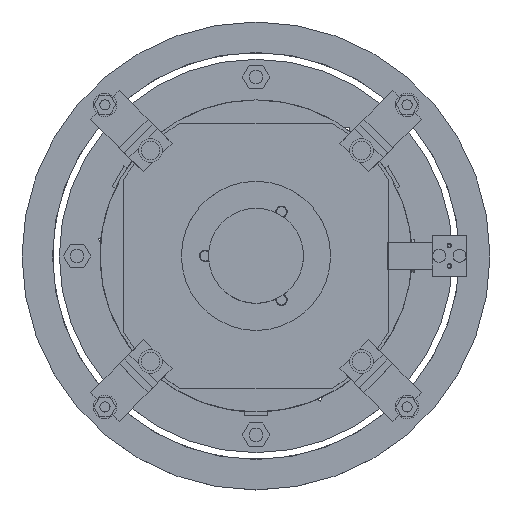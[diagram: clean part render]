
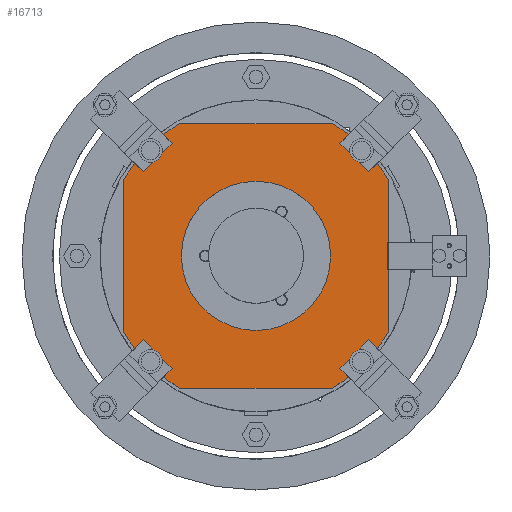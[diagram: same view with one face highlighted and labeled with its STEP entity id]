
A CAD part, top view. The second image highlights one B-rep face of the part: STEP entity #16713.
In plain terms, the highlighted planar face has unit normal (0, 0, 1).
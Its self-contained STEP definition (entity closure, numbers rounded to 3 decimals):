
#16230 = VERTEX_POINT('',#16231);
#16231 = CARTESIAN_POINT('',(39.,-22.45,-43.8));
#16237 = EDGE_CURVE('',#16238,#16230,#16240,.T.);
#16238 = VERTEX_POINT('',#16239);
#16239 = CARTESIAN_POINT('',(35.778,-27.293,-43.8));
#16240 = CIRCLE('',#16241,45.);
#16241 = AXIS2_PLACEMENT_3D('',#16242,#16243,#16244);
#16242 = CARTESIAN_POINT('',(0.,0.,-43.8));
#16243 = DIRECTION('',(0.,0.,1.));
#16244 = DIRECTION('',(1.,0.,-0.));
#16679 = EDGE_CURVE('',#16238,#16680,#16682,.T.);
#16680 = VERTEX_POINT('',#16681);
#16681 = CARTESIAN_POINT('',(33.234,-24.749,-43.8));
#16682 = LINE('',#16683,#16684);
#16683 = CARTESIAN_POINT('',(18.738,-10.253,-43.8));
#16684 = VECTOR('',#16685,1.);
#16685 = DIRECTION('',(-0.707,0.707,0.));
#16713 = ADVANCED_FACE('',(#16714,#16931),#16942,.T.);
#16714 = FACE_BOUND('',#16715,.T.);
#16715 = EDGE_LOOP('',(#16716,#16726,#16735,#16743,#16752,#16760,#16766,
    #16767,#16768,#16776,#16784,#16792,#16800,#16808,#16817,#16825,
    #16833,#16841,#16850,#16858,#16867,#16875,#16883,#16891,#16900,
    #16908,#16917,#16925));
#16716 = ORIENTED_EDGE('',*,*,#16717,.F.);
#16717 = EDGE_CURVE('',#16718,#16720,#16722,.T.);
#16718 = VERTEX_POINT('',#16719);
#16719 = CARTESIAN_POINT('',(-27.293,-35.778,-43.8));
#16720 = VERTEX_POINT('',#16721);
#16721 = CARTESIAN_POINT('',(-24.749,-33.234,-43.8));
#16722 = LINE('',#16723,#16724);
#16723 = CARTESIAN_POINT('',(-10.253,-18.738,-43.8));
#16724 = VECTOR('',#16725,1.);
#16725 = DIRECTION('',(0.707,0.707,-0.));
#16726 = ORIENTED_EDGE('',*,*,#16727,.T.);
#16727 = EDGE_CURVE('',#16718,#16728,#16730,.T.);
#16728 = VERTEX_POINT('',#16729);
#16729 = CARTESIAN_POINT('',(-22.45,-39.,-43.8));
#16730 = CIRCLE('',#16731,45.);
#16731 = AXIS2_PLACEMENT_3D('',#16732,#16733,#16734);
#16732 = CARTESIAN_POINT('',(0.,0.,-43.8));
#16733 = DIRECTION('',(0.,0.,1.));
#16734 = DIRECTION('',(1.,0.,-0.));
#16735 = ORIENTED_EDGE('',*,*,#16736,.T.);
#16736 = EDGE_CURVE('',#16728,#16737,#16739,.T.);
#16737 = VERTEX_POINT('',#16738);
#16738 = CARTESIAN_POINT('',(22.45,-39.,-43.8));
#16739 = LINE('',#16740,#16741);
#16740 = CARTESIAN_POINT('',(-39.,-39.,-43.8));
#16741 = VECTOR('',#16742,1.);
#16742 = DIRECTION('',(1.,0.,-0.));
#16743 = ORIENTED_EDGE('',*,*,#16744,.T.);
#16744 = EDGE_CURVE('',#16737,#16745,#16747,.T.);
#16745 = VERTEX_POINT('',#16746);
#16746 = CARTESIAN_POINT('',(27.293,-35.778,-43.8));
#16747 = CIRCLE('',#16748,45.);
#16748 = AXIS2_PLACEMENT_3D('',#16749,#16750,#16751);
#16749 = CARTESIAN_POINT('',(0.,0.,-43.8));
#16750 = DIRECTION('',(0.,0.,1.));
#16751 = DIRECTION('',(1.,0.,-0.));
#16752 = ORIENTED_EDGE('',*,*,#16753,.T.);
#16753 = EDGE_CURVE('',#16745,#16754,#16756,.T.);
#16754 = VERTEX_POINT('',#16755);
#16755 = CARTESIAN_POINT('',(24.749,-33.234,-43.8));
#16756 = LINE('',#16757,#16758);
#16757 = CARTESIAN_POINT('',(10.253,-18.738,-43.8));
#16758 = VECTOR('',#16759,1.);
#16759 = DIRECTION('',(-0.707,0.707,0.));
#16760 = ORIENTED_EDGE('',*,*,#16761,.T.);
#16761 = EDGE_CURVE('',#16754,#16680,#16762,.T.);
#16762 = LINE('',#16763,#16764);
#16763 = CARTESIAN_POINT('',(26.87,-31.113,-43.8));
#16764 = VECTOR('',#16765,1.);
#16765 = DIRECTION('',(0.707,0.707,-0.));
#16766 = ORIENTED_EDGE('',*,*,#16679,.F.);
#16767 = ORIENTED_EDGE('',*,*,#16237,.T.);
#16768 = ORIENTED_EDGE('',*,*,#16769,.T.);
#16769 = EDGE_CURVE('',#16230,#16770,#16772,.T.);
#16770 = VERTEX_POINT('',#16771);
#16771 = CARTESIAN_POINT('',(39.,-4.,-43.8));
#16772 = LINE('',#16773,#16774);
#16773 = CARTESIAN_POINT('',(39.,-39.,-43.8));
#16774 = VECTOR('',#16775,1.);
#16775 = DIRECTION('',(-0.,1.,0.));
#16776 = ORIENTED_EDGE('',*,*,#16777,.F.);
#16777 = EDGE_CURVE('',#16778,#16770,#16780,.T.);
#16778 = VERTEX_POINT('',#16779);
#16779 = CARTESIAN_POINT('',(38.9,-4.,-43.8));
#16780 = LINE('',#16781,#16782);
#16781 = CARTESIAN_POINT('',(38.9,-4.,-43.8));
#16782 = VECTOR('',#16783,1.);
#16783 = DIRECTION('',(1.,0.,-0.));
#16784 = ORIENTED_EDGE('',*,*,#16785,.T.);
#16785 = EDGE_CURVE('',#16778,#16786,#16788,.T.);
#16786 = VERTEX_POINT('',#16787);
#16787 = CARTESIAN_POINT('',(38.9,4.,-43.8));
#16788 = LINE('',#16789,#16790);
#16789 = CARTESIAN_POINT('',(38.9,-4.,-43.8));
#16790 = VECTOR('',#16791,1.);
#16791 = DIRECTION('',(-0.,1.,0.));
#16792 = ORIENTED_EDGE('',*,*,#16793,.T.);
#16793 = EDGE_CURVE('',#16786,#16794,#16796,.T.);
#16794 = VERTEX_POINT('',#16795);
#16795 = CARTESIAN_POINT('',(39.,4.,-43.8));
#16796 = LINE('',#16797,#16798);
#16797 = CARTESIAN_POINT('',(38.9,4.,-43.8));
#16798 = VECTOR('',#16799,1.);
#16799 = DIRECTION('',(1.,0.,-0.));
#16800 = ORIENTED_EDGE('',*,*,#16801,.T.);
#16801 = EDGE_CURVE('',#16794,#16802,#16804,.T.);
#16802 = VERTEX_POINT('',#16803);
#16803 = CARTESIAN_POINT('',(39.,22.45,-43.8));
#16804 = LINE('',#16805,#16806);
#16805 = CARTESIAN_POINT('',(39.,-39.,-43.8));
#16806 = VECTOR('',#16807,1.);
#16807 = DIRECTION('',(-0.,1.,0.));
#16808 = ORIENTED_EDGE('',*,*,#16809,.T.);
#16809 = EDGE_CURVE('',#16802,#16810,#16812,.T.);
#16810 = VERTEX_POINT('',#16811);
#16811 = CARTESIAN_POINT('',(35.778,27.293,-43.8));
#16812 = CIRCLE('',#16813,45.);
#16813 = AXIS2_PLACEMENT_3D('',#16814,#16815,#16816);
#16814 = CARTESIAN_POINT('',(0.,0.,-43.8));
#16815 = DIRECTION('',(0.,0.,1.));
#16816 = DIRECTION('',(1.,0.,-0.));
#16817 = ORIENTED_EDGE('',*,*,#16818,.T.);
#16818 = EDGE_CURVE('',#16810,#16819,#16821,.T.);
#16819 = VERTEX_POINT('',#16820);
#16820 = CARTESIAN_POINT('',(33.234,24.749,-43.8));
#16821 = LINE('',#16822,#16823);
#16822 = CARTESIAN_POINT('',(18.738,10.253,-43.8));
#16823 = VECTOR('',#16824,1.);
#16824 = DIRECTION('',(-0.707,-0.707,0.));
#16825 = ORIENTED_EDGE('',*,*,#16826,.T.);
#16826 = EDGE_CURVE('',#16819,#16827,#16829,.T.);
#16827 = VERTEX_POINT('',#16828);
#16828 = CARTESIAN_POINT('',(24.749,33.234,-43.8));
#16829 = LINE('',#16830,#16831);
#16830 = CARTESIAN_POINT('',(31.113,26.87,-43.8));
#16831 = VECTOR('',#16832,1.);
#16832 = DIRECTION('',(-0.707,0.707,0.));
#16833 = ORIENTED_EDGE('',*,*,#16834,.F.);
#16834 = EDGE_CURVE('',#16835,#16827,#16837,.T.);
#16835 = VERTEX_POINT('',#16836);
#16836 = CARTESIAN_POINT('',(27.293,35.778,-43.8));
#16837 = LINE('',#16838,#16839);
#16838 = CARTESIAN_POINT('',(10.253,18.738,-43.8));
#16839 = VECTOR('',#16840,1.);
#16840 = DIRECTION('',(-0.707,-0.707,0.));
#16841 = ORIENTED_EDGE('',*,*,#16842,.T.);
#16842 = EDGE_CURVE('',#16835,#16843,#16845,.T.);
#16843 = VERTEX_POINT('',#16844);
#16844 = CARTESIAN_POINT('',(22.45,39.,-43.8));
#16845 = CIRCLE('',#16846,45.);
#16846 = AXIS2_PLACEMENT_3D('',#16847,#16848,#16849);
#16847 = CARTESIAN_POINT('',(0.,0.,-43.8));
#16848 = DIRECTION('',(0.,0.,1.));
#16849 = DIRECTION('',(1.,0.,-0.));
#16850 = ORIENTED_EDGE('',*,*,#16851,.F.);
#16851 = EDGE_CURVE('',#16852,#16843,#16854,.T.);
#16852 = VERTEX_POINT('',#16853);
#16853 = CARTESIAN_POINT('',(-22.45,39.,-43.8));
#16854 = LINE('',#16855,#16856);
#16855 = CARTESIAN_POINT('',(-39.,39.,-43.8));
#16856 = VECTOR('',#16857,1.);
#16857 = DIRECTION('',(1.,0.,-0.));
#16858 = ORIENTED_EDGE('',*,*,#16859,.T.);
#16859 = EDGE_CURVE('',#16852,#16860,#16862,.T.);
#16860 = VERTEX_POINT('',#16861);
#16861 = CARTESIAN_POINT('',(-27.293,35.778,-43.8));
#16862 = CIRCLE('',#16863,45.);
#16863 = AXIS2_PLACEMENT_3D('',#16864,#16865,#16866);
#16864 = CARTESIAN_POINT('',(0.,0.,-43.8));
#16865 = DIRECTION('',(0.,0.,1.));
#16866 = DIRECTION('',(1.,0.,-0.));
#16867 = ORIENTED_EDGE('',*,*,#16868,.T.);
#16868 = EDGE_CURVE('',#16860,#16869,#16871,.T.);
#16869 = VERTEX_POINT('',#16870);
#16870 = CARTESIAN_POINT('',(-24.749,33.234,-43.8));
#16871 = LINE('',#16872,#16873);
#16872 = CARTESIAN_POINT('',(-10.253,18.738,-43.8));
#16873 = VECTOR('',#16874,1.);
#16874 = DIRECTION('',(0.707,-0.707,0.));
#16875 = ORIENTED_EDGE('',*,*,#16876,.T.);
#16876 = EDGE_CURVE('',#16869,#16877,#16879,.T.);
#16877 = VERTEX_POINT('',#16878);
#16878 = CARTESIAN_POINT('',(-33.234,24.749,-43.8));
#16879 = LINE('',#16880,#16881);
#16880 = CARTESIAN_POINT('',(-26.87,31.113,-43.8));
#16881 = VECTOR('',#16882,1.);
#16882 = DIRECTION('',(-0.707,-0.707,0.));
#16883 = ORIENTED_EDGE('',*,*,#16884,.F.);
#16884 = EDGE_CURVE('',#16885,#16877,#16887,.T.);
#16885 = VERTEX_POINT('',#16886);
#16886 = CARTESIAN_POINT('',(-35.778,27.293,-43.8));
#16887 = LINE('',#16888,#16889);
#16888 = CARTESIAN_POINT('',(-18.738,10.253,-43.8));
#16889 = VECTOR('',#16890,1.);
#16890 = DIRECTION('',(0.707,-0.707,0.));
#16891 = ORIENTED_EDGE('',*,*,#16892,.T.);
#16892 = EDGE_CURVE('',#16885,#16893,#16895,.T.);
#16893 = VERTEX_POINT('',#16894);
#16894 = CARTESIAN_POINT('',(-39.,22.45,-43.8));
#16895 = CIRCLE('',#16896,45.);
#16896 = AXIS2_PLACEMENT_3D('',#16897,#16898,#16899);
#16897 = CARTESIAN_POINT('',(0.,0.,-43.8));
#16898 = DIRECTION('',(0.,0.,1.));
#16899 = DIRECTION('',(1.,0.,-0.));
#16900 = ORIENTED_EDGE('',*,*,#16901,.F.);
#16901 = EDGE_CURVE('',#16902,#16893,#16904,.T.);
#16902 = VERTEX_POINT('',#16903);
#16903 = CARTESIAN_POINT('',(-39.,-22.45,-43.8));
#16904 = LINE('',#16905,#16906);
#16905 = CARTESIAN_POINT('',(-39.,-39.,-43.8));
#16906 = VECTOR('',#16907,1.);
#16907 = DIRECTION('',(-0.,1.,0.));
#16908 = ORIENTED_EDGE('',*,*,#16909,.T.);
#16909 = EDGE_CURVE('',#16902,#16910,#16912,.T.);
#16910 = VERTEX_POINT('',#16911);
#16911 = CARTESIAN_POINT('',(-35.778,-27.293,-43.8));
#16912 = CIRCLE('',#16913,45.);
#16913 = AXIS2_PLACEMENT_3D('',#16914,#16915,#16916);
#16914 = CARTESIAN_POINT('',(0.,0.,-43.8));
#16915 = DIRECTION('',(0.,0.,1.));
#16916 = DIRECTION('',(1.,0.,-0.));
#16917 = ORIENTED_EDGE('',*,*,#16918,.T.);
#16918 = EDGE_CURVE('',#16910,#16919,#16921,.T.);
#16919 = VERTEX_POINT('',#16920);
#16920 = CARTESIAN_POINT('',(-33.234,-24.749,-43.8));
#16921 = LINE('',#16922,#16923);
#16922 = CARTESIAN_POINT('',(-18.738,-10.253,-43.8));
#16923 = VECTOR('',#16924,1.);
#16924 = DIRECTION('',(0.707,0.707,-0.));
#16925 = ORIENTED_EDGE('',*,*,#16926,.T.);
#16926 = EDGE_CURVE('',#16919,#16720,#16927,.T.);
#16927 = LINE('',#16928,#16929);
#16928 = CARTESIAN_POINT('',(-31.113,-26.87,-43.8));
#16929 = VECTOR('',#16930,1.);
#16930 = DIRECTION('',(0.707,-0.707,0.));
#16931 = FACE_BOUND('',#16932,.T.);
#16932 = EDGE_LOOP('',(#16933));
#16933 = ORIENTED_EDGE('',*,*,#16934,.F.);
#16934 = EDGE_CURVE('',#16935,#16935,#16937,.T.);
#16935 = VERTEX_POINT('',#16936);
#16936 = CARTESIAN_POINT('',(22.,0.,-43.8));
#16937 = CIRCLE('',#16938,22.);
#16938 = AXIS2_PLACEMENT_3D('',#16939,#16940,#16941);
#16939 = CARTESIAN_POINT('',(0.,0.,-43.8));
#16940 = DIRECTION('',(0.,0.,1.));
#16941 = DIRECTION('',(1.,0.,-0.));
#16942 = PLANE('',#16943);
#16943 = AXIS2_PLACEMENT_3D('',#16944,#16945,#16946);
#16944 = CARTESIAN_POINT('',(0.,0.,-43.8));
#16945 = DIRECTION('',(0.,0.,1.));
#16946 = DIRECTION('',(1.,0.,-0.));
